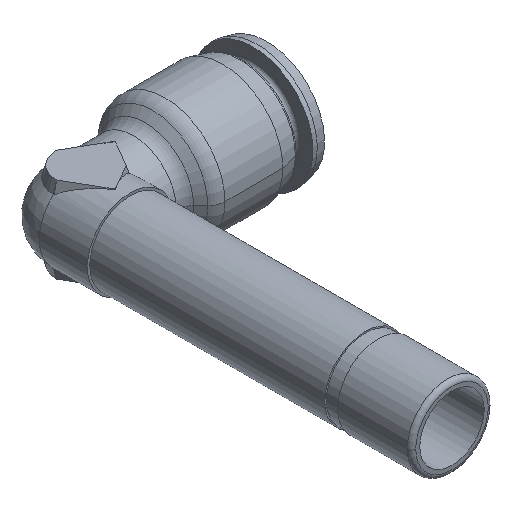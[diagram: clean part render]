
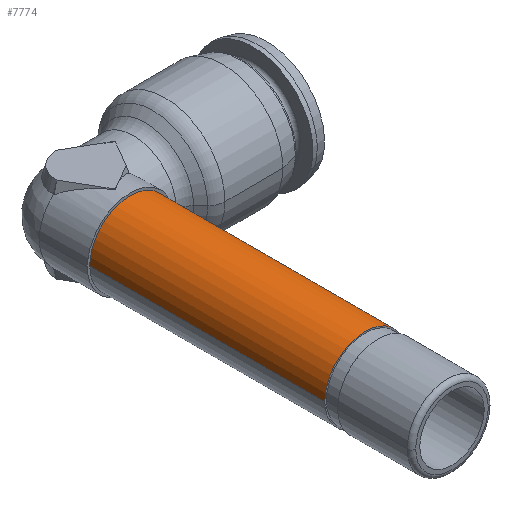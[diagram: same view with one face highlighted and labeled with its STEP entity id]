
A CAD part, isometric view. The second image highlights one B-rep face of the part: STEP entity #7774.
In plain terms, the highlighted cylindrical face has radius 4.725 mm (diameter 9.45 mm), a partial arc.
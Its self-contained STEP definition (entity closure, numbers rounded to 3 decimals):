
#372 = CARTESIAN_POINT ( 'NONE',  ( 0., 0., 0. ) ) ;
#380 = CIRCLE ( 'NONE', #13452, 4.725 ) ;
#828 = VERTEX_POINT ( 'NONE', #5721 ) ;
#883 = DIRECTION ( 'NONE',  ( 0., 1., 0. ) ) ;
#1621 = CARTESIAN_POINT ( 'NONE',  ( -4.725, -33., 0. ) ) ;
#2205 = DIRECTION ( 'NONE',  ( 0., 1., 0. ) ) ;
#2559 = EDGE_LOOP ( 'NONE', ( #5259, #5599, #3415, #9476 ) ) ;
#2672 = DIRECTION ( 'NONE',  ( -1., 0., 0. ) ) ;
#2985 = VERTEX_POINT ( 'NONE', #10035 ) ;
#3308 = EDGE_CURVE ( 'NONE', #10953, #10340, #380, .T. ) ;
#3415 = ORIENTED_EDGE ( 'NONE', *, *, #9283, .F. ) ;
#3750 = VECTOR ( 'NONE', #2205, 1000. ) ;
#4296 = DIRECTION ( 'NONE',  ( 0., 1., 0. ) ) ;
#4493 = EDGE_CURVE ( 'NONE', #10340, #828, #13823, .T. ) ;
#4591 = DIRECTION ( 'NONE',  ( 0., 1., 0. ) ) ;
#5259 = ORIENTED_EDGE ( 'NONE', *, *, #3308, .T. ) ;
#5599 = ORIENTED_EDGE ( 'NONE', *, *, #4493, .T. ) ;
#5721 = CARTESIAN_POINT ( 'NONE',  ( 4.725, -5.6, 0. ) ) ;
#6042 = AXIS2_PLACEMENT_3D ( 'NONE', #7332, #883, #8452 ) ;
#6180 = CARTESIAN_POINT ( 'NONE',  ( 4.725, 0., 0. ) ) ;
#7332 = CARTESIAN_POINT ( 'NONE',  ( 0., -5.6, 0. ) ) ;
#7774 = ADVANCED_FACE ( 'NONE', ( #8297 ), #12544, .T. ) ;
#8297 = FACE_OUTER_BOUND ( 'NONE', #2559, .T. ) ;
#8452 = DIRECTION ( 'NONE',  ( -1., 0., 0. ) ) ;
#9283 = EDGE_CURVE ( 'NONE', #2985, #828, #12987, .T. ) ;
#9476 = ORIENTED_EDGE ( 'NONE', *, *, #11802, .F. ) ;
#10035 = CARTESIAN_POINT ( 'NONE',  ( -4.725, -5.6, 0. ) ) ;
#10340 = VERTEX_POINT ( 'NONE', #13662 ) ;
#10712 = CARTESIAN_POINT ( 'NONE',  ( 0., -33., 0. ) ) ;
#10953 = VERTEX_POINT ( 'NONE', #1621 ) ;
#11754 = DIRECTION ( 'NONE',  ( -1., 0., 0. ) ) ;
#11802 = EDGE_CURVE ( 'NONE', #10953, #2985, #11899, .T. ) ;
#11899 = LINE ( 'NONE', #12044, #3750 ) ;
#12044 = CARTESIAN_POINT ( 'NONE',  ( -4.725, 0., 0. ) ) ;
#12544 = CYLINDRICAL_SURFACE ( 'NONE', #12893, 4.725 ) ;
#12565 = DIRECTION ( 'NONE',  ( 0., 1., 0. ) ) ;
#12893 = AXIS2_PLACEMENT_3D ( 'NONE', #372, #4591, #2672 ) ;
#12987 = CIRCLE ( 'NONE', #6042, 4.725 ) ;
#13452 = AXIS2_PLACEMENT_3D ( 'NONE', #10712, #4296, #11754 ) ;
#13505 = VECTOR ( 'NONE', #12565, 1000. ) ;
#13662 = CARTESIAN_POINT ( 'NONE',  ( 4.725, -33., 0. ) ) ;
#13823 = LINE ( 'NONE', #6180, #13505 ) ;
